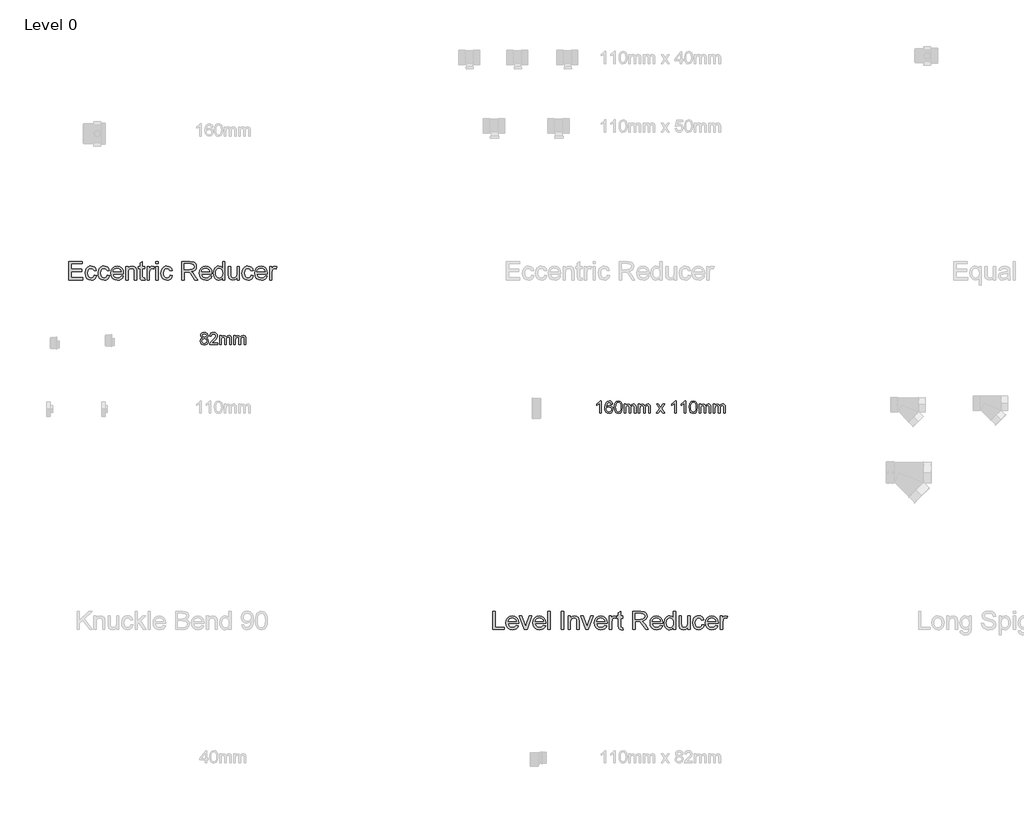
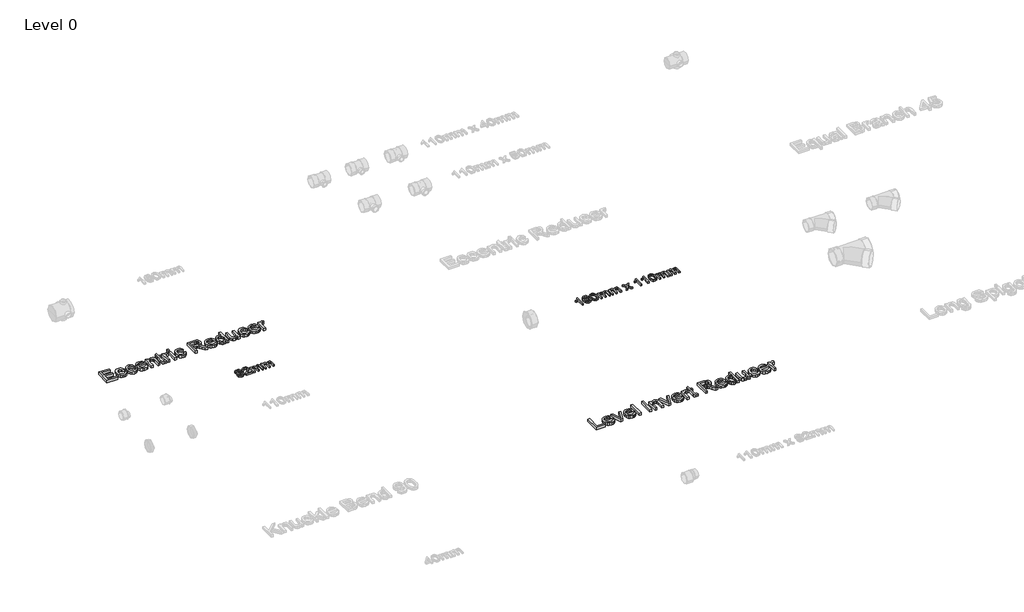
# One storey, part 9 of 28: 4 proxies.
"""IFC4 building model written with IfcOpenShell, lengths in millimetres."""

from ifc_helpers import new_model, si_unit, origin, origin_with_axes, place, context, project, spatial, polyline, outline, extrude, element, save

model = new_model("IFC4")

# Units and contexts
model_context = context("Model", 3, world=origin())
ifc_project = project(units=[si_unit("LENGTHUNIT", "METRE", prefix="MILLI")], contexts=[model_context])

# Site, building, storey
site = spatial("IfcSite", under=ifc_project)
building = spatial("IfcBuilding", under=site)
storey = spatial("IfcBuildingStorey", under=building, Name="Level 0", Elevation=0.0)

# Proxies
placement = place(None, origin())
element("IfcBuildingElementProxy", 1, Name="100mm Arial", ObjectType="100mm Arial", at=placement, inside=storey, context=model_context, shape_type="SweptSolid", body=[
    extrude(outline(polyline([(-20782.2581649, 3240.881174), (-20793.4721072, 3248.5254048), (-20797.1139341, 3260.4244433), (-20795.1307611, 3270.0458375), (-20789.1812418, 3277.9965587), (-20779.9324438, 3283.3330971), (-20768.0514341, 3285.1119433), (-20756.0983091, 3283.2910298), (-20746.7293188, 3277.8282894), (-20740.6716264, 3269.7513663), (-20738.6523957, 3260.0879048), (-20742.2461457, 3248.4893471), (-20753.147588, 3240.881174), (-20740.0586457, 3231.2297317), (-20735.5754726, 3215.304251), (-20737.7990303, 3203.537424), (-20744.4697034, 3193.8138663), (-20754.7701841, 3187.287424), (-20767.8831649, 3185.1119433), (-20780.9961457, 3187.2964385), (-20791.2966264, 3193.849924), (-20797.9672995, 3203.6666308), (-20800.1908572, 3215.6407894), (-20795.5273957, 3231.9388663), (-20782.2581649, 3240.881174)]), holes=[polyline([(-20784.8062418, 3260.0638663), (-20780.4432611, 3250.4004048), (-20767.7389341, 3246.6504048), (-20755.2870111, 3250.3763663), (-20750.960088, 3259.5109817), (-20755.4312418, 3268.9701163), (-20767.8831649, 3272.804251), (-20780.3711457, 3269.054251), (-20784.8062418, 3260.0638663)]), polyline([(-20787.8831649, 3216.0734817), (-20785.8278764, 3206.8066548), (-20778.5562418, 3199.8715587), (-20767.7870111, 3197.4196356), (-20753.1235495, 3202.5758856), (-20747.8831649, 3215.6888663), (-20753.2918188, 3229.054251), (-20759.7221072, 3233.0205971), (-20768.1956649, 3234.3427125), (-20782.678838, 3229.1263663), (-20787.8831649, 3216.0734817)])]), origin_with_axes(), (0.0, 0.0, 1.0), 15.0),
    extrude(outline(polyline([(-20661.7293188, 3198.9580971), (-20661.7293188, 3186.6504048), (-20726.3447034, 3186.6504048), (-20725.022588, 3195.1359817), (-20717.5466264, 3208.2008856), (-20702.1379726, 3222.4677125), (-20680.8879726, 3242.9725202), (-20675.5754726, 3256.9148279), (-20680.5874918, 3268.2008856), (-20693.6764341, 3272.804251), (-20707.3182611, 3268.3090587), (-20712.4985495, 3255.881174), (-20724.8062418, 3257.4196356), (-20721.8224678, 3269.3246837), (-20715.3711457, 3278.0205971), (-20705.7888139, 3283.3391067), (-20693.4120111, 3285.1119433), (-20680.9450639, 3283.1407894), (-20671.3807611, 3277.2273279), (-20665.2960255, 3268.3931933), (-20663.2677803, 3257.6600202), (-20665.4552803, 3245.9893471), (-20672.7269149, 3233.9220394), (-20690.3591264, 3217.0590587), (-20704.5177803, 3205.2201163), (-20710.0706649, 3198.9580971), (-20661.7293188, 3198.9580971)])), origin_with_axes(), (0.0, 0.0, 1.0), 15.0),
    extrude(outline(polyline([(-20646.3447034, 3186.6504048), (-20646.3447034, 3258.9580971), (-20634.0370111, 3258.9580971), (-20634.0370111, 3247.0590587), (-20625.5754726, 3256.8066548), (-20613.5322034, 3260.4965587), (-20601.2004726, 3256.7345394), (-20594.4216264, 3246.193674), (-20584.8182611, 3256.9208375), (-20572.6908572, 3260.4965587), (-20563.4390543, 3259.0091788), (-20556.5971072, 3254.5470394), (-20552.3693428, 3246.9899481), (-20550.960088, 3236.2177125), (-20550.960088, 3186.6504048), (-20563.2677803, 3186.6504048), (-20563.2677803, 3230.929251), (-20564.4096072, 3241.2056933), (-20568.5442226, 3246.2657894), (-20575.5754726, 3248.1888663), (-20587.678838, 3243.2609817), (-20592.4985495, 3227.4677125), (-20592.4985495, 3186.6504048), (-20604.8062418, 3186.6504048), (-20604.8062418, 3232.2994433), (-20607.6547995, 3244.2225202), (-20616.9937418, 3248.1888663), (-20626.1043188, 3245.5446356), (-20632.1620111, 3237.804251), (-20634.0370111, 3223.116751), (-20634.0370111, 3186.6504048), (-20646.3447034, 3186.6504048)])), origin_with_axes(), (0.0, 0.0, 1.0), 15.0),
    extrude(outline(polyline([(-20532.4985495, 3186.6504048), (-20532.4985495, 3258.9580971), (-20520.1908572, 3258.9580971), (-20520.1908572, 3247.0590587), (-20511.7293188, 3256.8066548), (-20499.6860495, 3260.4965587), (-20487.3543188, 3256.7345394), (-20480.5754726, 3246.193674), (-20470.9721072, 3256.9208375), (-20458.8447034, 3260.4965587), (-20449.5929005, 3259.0091788), (-20442.7509534, 3254.5470394), (-20438.5231889, 3246.9899481), (-20437.1139341, 3236.2177125), (-20437.1139341, 3186.6504048), (-20449.4216264, 3186.6504048), (-20449.4216264, 3230.929251), (-20450.5634534, 3241.2056933), (-20454.6980688, 3246.2657894), (-20461.7293188, 3248.1888663), (-20473.8326841, 3243.2609817), (-20478.6523957, 3227.4677125), (-20478.6523957, 3186.6504048), (-20490.960088, 3186.6504048), (-20490.960088, 3232.2994433), (-20493.8086457, 3244.2225202), (-20503.147588, 3248.1888663), (-20512.2581649, 3245.5446356), (-20518.3158572, 3237.804251), (-20520.1908572, 3223.116751), (-20520.1908572, 3186.6504048), (-20532.4985495, 3186.6504048)])), origin_with_axes(), (0.0, 0.0, 1.0), 15.0),
])
element("IfcBuildingElementProxy", 2, Name="100mm Arial", ObjectType="100mm Arial", at=placement, inside=storey, context=model_context, shape_type="SweptSolid", body=[
    extrude(outline(polyline([(-17591.7293188, 2637.7167304), (-17604.0370111, 2637.7167304), (-17604.0370111, 2714.4474996), (-17615.6956649, 2706.1422111), (-17628.6523957, 2699.9282688), (-17628.6523957, 2711.5628842), (-17610.6115303, 2723.0773073), (-17599.6620111, 2736.1782688), (-17591.7293188, 2736.1782688), (-17591.7293188, 2637.7167304)])), origin_with_axes(), (0.0, 0.0, 1.0), 15.0),
    extrude(outline(polyline([(-17499.4216264, 2710.0244227), (-17511.7293188, 2708.4859611), (-17516.3927803, 2718.7503842), (-17528.7245111, 2723.8705765), (-17539.8302803, 2720.8898073), (-17548.2317226, 2709.6999035), (-17551.7293188, 2687.7648073), (-17540.8759534, 2697.5845188), (-17527.4264341, 2700.7936535), (-17516.0562418, 2698.6001438), (-17506.5129726, 2692.019615), (-17500.0406168, 2681.9655285), (-17497.8831649, 2669.3513458), (-17501.9456649, 2652.3681727), (-17513.1235495, 2640.3489419), (-17529.2533572, 2636.1782688), (-17543.2166986, 2638.9426919), (-17554.3374918, 2647.2359611), (-17561.6121313, 2661.8753842), (-17564.0370111, 2683.6782688), (-17561.3447034, 2708.19149), (-17553.2677803, 2724.9523073), (-17542.2401361, 2733.3717785), (-17527.9552803, 2736.1782688), (-17517.1560014, 2734.44149), (-17508.5081649, 2729.2311535), (-17502.4504726, 2720.9559131), (-17499.4216264, 2710.0244227)]), holes=[polyline([(-17551.7293188, 2669.5436535), (-17548.8807611, 2658.8825958), (-17541.3086457, 2651.1422111), (-17530.2148957, 2648.4859611), (-17522.0929005, 2649.8621631), (-17515.7076841, 2653.9907688), (-17511.5700639, 2660.4811535), (-17510.1908572, 2668.9426919), (-17511.5520351, 2677.0646871), (-17515.6355688, 2683.2575958), (-17530.7197034, 2688.4859611), (-17545.6115303, 2683.2575958), (-17550.1998716, 2677.2149275), (-17551.7293188, 2669.5436535)])]), origin_with_axes(), (0.0, 0.0, 1.0), 15.0),
    extrude(outline(polyline([(-17487.1139341, 2686.1542304), (-17483.4961457, 2714.4835573), (-17472.7509534, 2730.8176919), (-17454.8062418, 2736.1782688), (-17440.4312418, 2733.0051919), (-17430.5033572, 2723.8585573), (-17424.7341264, 2709.2912496), (-17422.4985495, 2686.1542304), (-17426.0802803, 2657.9450958), (-17436.7894149, 2641.5749035), (-17454.8062418, 2636.1782688), (-17467.5947034, 2638.5220188), (-17477.3062418, 2645.5532688), (-17484.6620111, 2662.2059131), (-17487.1139341, 2686.1542304)]), holes=[polyline([(-17474.8062418, 2686.1782688), (-17473.3639341, 2666.8182929), (-17469.0370111, 2655.613365), (-17462.5947034, 2650.2678121), (-17454.8062418, 2648.4859611), (-17447.0177803, 2650.2738217), (-17440.5754726, 2655.6374035), (-17436.2485495, 2666.848341), (-17434.8062418, 2686.1782688), (-17436.2004726, 2705.1025477), (-17440.3831649, 2716.394615), (-17446.8134534, 2722.0015861), (-17454.9504726, 2723.8705765), (-17462.6547995, 2722.2239419), (-17468.8447034, 2717.2840381), (-17473.3158572, 2705.2888458), (-17474.8062418, 2686.1782688)])]), origin_with_axes(), (0.0, 0.0, 1.0), 15.0),
    extrude(outline(polyline([(-17408.6523957, 2637.7167304), (-17408.6523957, 2710.0244227), (-17396.3447034, 2710.0244227), (-17396.3447034, 2698.1253842), (-17387.8831649, 2707.8729804), (-17375.8398957, 2711.5628842), (-17363.5081649, 2707.800865), (-17356.7293188, 2697.2599996), (-17347.1259534, 2707.9871631), (-17334.9985495, 2711.5628842), (-17325.7467466, 2710.0755044), (-17318.9047995, 2705.613365), (-17314.6770351, 2698.0562736), (-17313.2677803, 2687.2840381), (-17313.2677803, 2637.7167304), (-17325.5754726, 2637.7167304), (-17325.5754726, 2681.9955765), (-17326.7172995, 2692.2720188), (-17330.8519149, 2697.332115), (-17337.8831649, 2699.2551919), (-17349.9865303, 2694.3273073), (-17354.8062418, 2678.5340381), (-17354.8062418, 2637.7167304), (-17367.1139341, 2637.7167304), (-17367.1139341, 2683.3657688), (-17369.9624918, 2695.2888458), (-17379.3014341, 2699.2551919), (-17388.4120111, 2696.6109611), (-17394.4697034, 2688.8705765), (-17396.3447034, 2674.1830765), (-17396.3447034, 2637.7167304), (-17408.6523957, 2637.7167304)])), origin_with_axes(), (0.0, 0.0, 1.0), 15.0),
    extrude(outline(polyline([(-17294.8062418, 2637.7167304), (-17294.8062418, 2710.0244227), (-17282.4985495, 2710.0244227), (-17282.4985495, 2698.1253842), (-17274.0370111, 2707.8729804), (-17261.9937418, 2711.5628842), (-17249.6620111, 2707.800865), (-17242.8831649, 2697.2599996), (-17233.2797995, 2707.9871631), (-17221.1523957, 2711.5628842), (-17211.9005928, 2710.0755044), (-17205.0586457, 2705.613365), (-17200.8308813, 2698.0562736), (-17199.4216264, 2687.2840381), (-17199.4216264, 2637.7167304), (-17211.7293188, 2637.7167304), (-17211.7293188, 2681.9955765), (-17212.8711457, 2692.2720188), (-17217.0057611, 2697.332115), (-17224.0370111, 2699.2551919), (-17236.1403764, 2694.3273073), (-17240.960088, 2678.5340381), (-17240.960088, 2637.7167304), (-17253.2677803, 2637.7167304), (-17253.2677803, 2683.3657688), (-17256.116338, 2695.2888458), (-17265.4552803, 2699.2551919), (-17274.5658572, 2696.6109611), (-17280.6235495, 2688.8705765), (-17282.4985495, 2674.1830765), (-17282.4985495, 2637.7167304), (-17294.8062418, 2637.7167304)])), origin_with_axes(), (0.0, 0.0, 1.0), 15.0),
    extrude(outline(polyline([(-17150.1908572, 2637.7167304), (-17123.8927803, 2674.0628842), (-17148.6523957, 2710.0244227), (-17133.8447034, 2710.0244227), (-17121.897588, 2692.7167304), (-17116.3206649, 2684.5436535), (-17111.4889341, 2691.2263458), (-17097.8831649, 2710.0244227), (-17083.0754726, 2710.0244227), (-17109.085088, 2674.0628842), (-17084.0370111, 2637.7167304), (-17098.8447034, 2637.7167304), (-17113.9168188, 2659.5676919), (-17116.6812418, 2663.5580765), (-17135.3831649, 2637.7167304), (-17150.1908572, 2637.7167304)])), origin_with_axes(), (0.0, 0.0, 1.0), 15.0),
    extrude(outline(polyline([(-16991.7293188, 2637.7167304), (-17004.0370111, 2637.7167304), (-17004.0370111, 2714.4474996), (-17015.6956649, 2706.1422111), (-17028.6523957, 2699.9282688), (-17028.6523957, 2711.5628842), (-17010.6115303, 2723.0773073), (-16999.6620111, 2736.1782688), (-16991.7293188, 2736.1782688), (-16991.7293188, 2637.7167304)])), origin_with_axes(), (0.0, 0.0, 1.0), 15.0),
    extrude(outline(polyline([(-16916.3447034, 2637.7167304), (-16928.6523957, 2637.7167304), (-16928.6523957, 2714.4474996), (-16940.3110495, 2706.1422111), (-16953.2677803, 2699.9282688), (-16953.2677803, 2711.5628842), (-16935.2269149, 2723.0773073), (-16924.2773957, 2736.1782688), (-16916.3447034, 2736.1782688), (-16916.3447034, 2637.7167304)])), origin_with_axes(), (0.0, 0.0, 1.0), 15.0),
    extrude(outline(polyline([(-16887.1139341, 2686.1542304), (-16883.4961457, 2714.4835573), (-16872.7509534, 2730.8176919), (-16854.8062418, 2736.1782688), (-16840.4312418, 2733.0051919), (-16830.5033572, 2723.8585573), (-16824.7341264, 2709.2912496), (-16822.4985495, 2686.1542304), (-16826.0802803, 2657.9450958), (-16836.7894149, 2641.5749035), (-16854.8062418, 2636.1782688), (-16867.5947034, 2638.5220188), (-16877.3062418, 2645.5532688), (-16884.6620111, 2662.2059131), (-16887.1139341, 2686.1542304)]), holes=[polyline([(-16874.8062418, 2686.1782688), (-16873.3639341, 2666.8182929), (-16869.0370111, 2655.613365), (-16862.5947034, 2650.2678121), (-16854.8062418, 2648.4859611), (-16847.0177803, 2650.2738217), (-16840.5754726, 2655.6374035), (-16836.2485495, 2666.848341), (-16834.8062418, 2686.1782688), (-16836.2004726, 2705.1025477), (-16840.3831649, 2716.394615), (-16846.8134534, 2722.0015861), (-16854.9504726, 2723.8705765), (-16862.6547995, 2722.2239419), (-16868.8447034, 2717.2840381), (-16873.3158572, 2705.2888458), (-16874.8062418, 2686.1782688)])]), origin_with_axes(), (0.0, 0.0, 1.0), 15.0),
    extrude(outline(polyline([(-16808.6523957, 2637.7167304), (-16808.6523957, 2710.0244227), (-16796.3447034, 2710.0244227), (-16796.3447034, 2698.1253842), (-16787.8831649, 2707.8729804), (-16775.8398957, 2711.5628842), (-16763.5081649, 2707.800865), (-16756.7293188, 2697.2599996), (-16747.1259534, 2707.9871631), (-16734.9985495, 2711.5628842), (-16725.7467466, 2710.0755044), (-16718.9047995, 2705.613365), (-16714.6770351, 2698.0562736), (-16713.2677803, 2687.2840381), (-16713.2677803, 2637.7167304), (-16725.5754726, 2637.7167304), (-16725.5754726, 2681.9955765), (-16726.7172995, 2692.2720188), (-16730.8519149, 2697.332115), (-16737.8831649, 2699.2551919), (-16749.9865303, 2694.3273073), (-16754.8062418, 2678.5340381), (-16754.8062418, 2637.7167304), (-16767.1139341, 2637.7167304), (-16767.1139341, 2683.3657688), (-16769.9624918, 2695.2888458), (-16779.3014341, 2699.2551919), (-16788.4120111, 2696.6109611), (-16794.4697034, 2688.8705765), (-16796.3447034, 2674.1830765), (-16796.3447034, 2637.7167304), (-16808.6523957, 2637.7167304)])), origin_with_axes(), (0.0, 0.0, 1.0), 15.0),
    extrude(outline(polyline([(-16694.8062418, 2637.7167304), (-16694.8062418, 2710.0244227), (-16682.4985495, 2710.0244227), (-16682.4985495, 2698.1253842), (-16674.0370111, 2707.8729804), (-16661.9937418, 2711.5628842), (-16649.6620111, 2707.800865), (-16642.8831649, 2697.2599996), (-16633.2797995, 2707.9871631), (-16621.1523957, 2711.5628842), (-16611.9005928, 2710.0755044), (-16605.0586457, 2705.613365), (-16600.8308813, 2698.0562736), (-16599.4216264, 2687.2840381), (-16599.4216264, 2637.7167304), (-16611.7293188, 2637.7167304), (-16611.7293188, 2681.9955765), (-16612.8711457, 2692.2720188), (-16617.0057611, 2697.332115), (-16624.0370111, 2699.2551919), (-16636.1403764, 2694.3273073), (-16640.960088, 2678.5340381), (-16640.960088, 2637.7167304), (-16653.2677803, 2637.7167304), (-16653.2677803, 2683.3657688), (-16656.116338, 2695.2888458), (-16665.4552803, 2699.2551919), (-16674.5658572, 2696.6109611), (-16680.6235495, 2688.8705765), (-16682.4985495, 2674.1830765), (-16682.4985495, 2637.7167304), (-16694.8062418, 2637.7167304)])), origin_with_axes(), (0.0, 0.0, 1.0), 15.0),
])
element("IfcBuildingElementProxy", 3, Name="150mm Arial", ObjectType="150mm Arial", at=placement, inside=storey, context=model_context, shape_type="SweptSolid", body=[
    extrude(outline(polyline([(-21851.7587589, 3705.2145219), (-21851.7587589, 3852.9068296), (-21745.6049127, 3852.9068296), (-21745.6049127, 3834.4452911), (-21833.2972204, 3834.4452911), (-21833.2972204, 3790.5991373), (-21750.2202973, 3790.5991373), (-21750.2202973, 3772.1375988), (-21833.2972204, 3772.1375988), (-21833.2972204, 3723.6760604), (-21743.2972204, 3723.6760604), (-21743.2972204, 3705.2145219), (-21851.7587589, 3705.2145219)])), origin_with_axes(), (0.0, 0.0, 1.0), 25.0),
    extrude(outline(polyline([(-21648.6818358, 3744.4452911), (-21630.2202973, 3742.1375988), (-21635.3675329, 3725.7178272), (-21645.0400089, 3713.3094738), (-21658.3272685, 3705.5074907), (-21674.318855, 3702.9068296), (-21693.9567757, 3706.5351349), (-21709.3128454, 3717.4200508), (-21719.2242036, 3735.0838128), (-21722.5279897, 3759.0486565), (-21716.8849608, 3789.7157238), (-21709.7635666, 3801.2136205), (-21699.6854416, 3809.4212527), (-21687.6286507, 3814.3431277), (-21674.5712589, 3815.9837527), (-21658.9717997, 3813.7301469), (-21646.5003454, 3806.9693296), (-21637.5535305, 3796.0618777), (-21632.5279897, 3781.3683681), (-21650.9895281, 3779.0606758), (-21659.55323, 3792.8888008), (-21674.4270281, 3797.5222142), (-21686.3576171, 3795.2415652), (-21695.8272685, 3788.3996181), (-21702.0066555, 3776.6267815), (-21704.0664512, 3759.5534642), (-21702.0517276, 3742.2502791), (-21696.007557, 3730.4368777), (-21686.7091796, 3723.6354955), (-21674.9318358, 3721.3683681), (-21665.3720401, 3722.7836325), (-21657.5339993, 3727.0294258), (-21651.8323767, 3734.213921), (-21648.6818358, 3744.4452911)])), origin_with_axes(), (0.0, 0.0, 1.0), 25.0),
    extrude(outline(polyline([(-21544.835682, 3744.4452911), (-21526.3741435, 3742.1375988), (-21531.5213791, 3725.7178272), (-21541.193855, 3713.3094738), (-21554.4811147, 3705.5074907), (-21570.4727012, 3702.9068296), (-21590.1106219, 3706.5351349), (-21605.4666916, 3717.4200508), (-21615.3780497, 3735.0838128), (-21618.6818358, 3759.0486565), (-21613.038807, 3789.7157238), (-21605.9174127, 3801.2136205), (-21595.8392877, 3809.4212527), (-21583.7824969, 3814.3431277), (-21570.725105, 3815.9837527), (-21555.1256459, 3813.7301469), (-21542.6541916, 3806.9693296), (-21533.7073767, 3796.0618777), (-21528.6818358, 3781.3683681), (-21547.1433743, 3779.0606758), (-21555.7070762, 3792.8888008), (-21570.5808743, 3797.5222142), (-21582.5114632, 3795.2415652), (-21591.9811147, 3788.3996181), (-21598.1605017, 3776.6267815), (-21600.2202973, 3759.5534642), (-21598.2055738, 3742.2502791), (-21592.1614031, 3730.4368777), (-21582.8630257, 3723.6354955), (-21571.085682, 3721.3683681), (-21561.5258863, 3722.7836325), (-21553.6878454, 3727.0294258), (-21547.9862228, 3734.213921), (-21544.835682, 3744.4452911)])), origin_with_axes(), (0.0, 0.0, 1.0), 25.0),
    extrude(outline(polyline([(-21434.2827973, 3737.5222142), (-21416.1818358, 3735.2145219), (-21422.7037709, 3721.5756998), (-21433.1109223, 3711.3803873), (-21447.1689151, 3705.025219), (-21464.6433743, 3702.9068296), (-21486.3050329, 3706.5621782), (-21502.9727012, 3717.5282238), (-21513.600706, 3735.0928272), (-21517.1433743, 3758.5438488), (-21513.5646483, 3782.7836325), (-21502.8284704, 3800.9116373), (-21486.3861627, 3812.2157238), (-21465.6890473, 3815.9837527), (-21445.6364632, 3812.2247383), (-21429.6133262, 3800.947695), (-21419.1070161, 3782.8557479), (-21415.6049127, 3758.6520219), (-21415.7130858, 3753.6760604), (-21498.6818358, 3753.6760604), (-21495.4862228, 3739.8569498), (-21488.0628454, 3729.697695), (-21477.3492036, 3723.4506998), (-21464.2827973, 3721.3683681), (-21446.1818358, 3725.2265411), (-21434.2827973, 3737.5222142)]), holes=[polyline([(-21498.6818358, 3772.1375988), (-21434.0664512, 3772.1375988), (-21436.5634464, 3781.8912046), (-21441.4582781, 3788.8683681), (-21452.2214993, 3795.3587527), (-21465.7611627, 3797.5222142), (-21478.2055738, 3795.7959522), (-21488.4955377, 3790.6171661), (-21495.6484824, 3782.5447503), (-21498.6818358, 3772.1375988)])]), origin_with_axes(), (0.0, 0.0, 1.0), 25.0),
    extrude(outline(polyline([(-21397.1433743, 3705.2145219), (-21397.1433743, 3813.6760604), (-21378.6818358, 3813.6760604), (-21378.6818358, 3798.5318296), (-21364.5652493, 3811.6207719), (-21345.2924127, 3815.9837527), (-21327.8585185, 3812.4681277), (-21315.95948, 3803.2373585), (-21310.4246243, 3789.6616373), (-21309.4510666, 3771.8130796), (-21309.4510666, 3705.2145219), (-21327.912605, 3705.2145219), (-21327.912605, 3769.3250988), (-21330.0400089, 3785.6592335), (-21337.5580377, 3794.2950508), (-21350.2323166, 3797.5222142), (-21361.0451171, 3795.7103152), (-21370.2623647, 3790.2746181), (-21376.576968, 3779.7728152), (-21378.6818358, 3762.7625988), (-21378.6818358, 3705.2145219), (-21397.1433743, 3705.2145219)])), origin_with_axes(), (0.0, 0.0, 1.0), 25.0),
    extrude(outline(polyline([(-21244.835682, 3720.6111565), (-21242.5279897, 3704.6736565), (-21256.3380858, 3702.9068296), (-21271.8068358, 3705.9717335), (-21279.523182, 3714.0125988), (-21281.7587589, 3734.9621181), (-21281.7587589, 3795.2145219), (-21295.6049127, 3795.2145219), (-21295.6049127, 3813.6760604), (-21281.7587589, 3813.6760604), (-21281.7587589, 3840.0342335), (-21263.2972204, 3850.8875988), (-21263.2972204, 3813.6760604), (-21244.835682, 3813.6760604), (-21244.835682, 3795.2145219), (-21263.2972204, 3795.2145219), (-21263.2972204, 3735.5029835), (-21262.3236627, 3725.9837527), (-21259.1686147, 3722.6123585), (-21252.8765473, 3721.3683681), (-21244.835682, 3720.6111565)])), origin_with_axes(), (0.0, 0.0, 1.0), 25.0),
    extrude(outline(polyline([(-21226.3741435, 3705.2145219), (-21226.3741435, 3813.6760604), (-21210.2202973, 3813.6760604), (-21210.2202973, 3797.6303873), (-21198.7539512, 3812.4140411), (-21187.2154897, 3815.9837527), (-21168.6818358, 3810.2866373), (-21174.8477012, 3793.7361565), (-21187.8284704, 3797.5222142), (-21198.2671723, 3793.8803873), (-21204.9198166, 3783.7842335), (-21207.912605, 3762.2217335), (-21207.912605, 3705.2145219), (-21226.3741435, 3705.2145219)])), origin_with_axes(), (0.0, 0.0, 1.0), 25.0),
    extrude(outline(polyline([(-21157.1433743, 3834.4452911), (-21157.1433743, 3852.9068296), (-21138.6818358, 3852.9068296), (-21138.6818358, 3834.4452911), (-21157.1433743, 3834.4452911)])), origin_with_axes(), (0.0, 0.0, 1.0), 25.0),
    extrude(outline(polyline([(-21157.1433743, 3705.2145219), (-21157.1433743, 3813.6760604), (-21138.6818358, 3813.6760604), (-21138.6818358, 3705.2145219), (-21157.1433743, 3705.2145219)])), origin_with_axes(), (0.0, 0.0, 1.0), 25.0),
    extrude(outline(polyline([(-21041.7587589, 3744.4452911), (-21023.2972204, 3742.1375988), (-21028.444456, 3725.7178272), (-21038.116932, 3713.3094738), (-21051.4041916, 3705.5074907), (-21067.3957781, 3702.9068296), (-21087.0336988, 3706.5351349), (-21102.3897685, 3717.4200508), (-21112.3011267, 3735.0838128), (-21115.6049127, 3759.0486565), (-21109.9618839, 3789.7157238), (-21102.8404897, 3801.2136205), (-21092.7623647, 3809.4212527), (-21080.7055738, 3814.3431277), (-21067.648182, 3815.9837527), (-21052.0487228, 3813.7301469), (-21039.5772685, 3806.9693296), (-21030.6304536, 3796.0618777), (-21025.6049127, 3781.3683681), (-21044.0664512, 3779.0606758), (-21052.6301531, 3792.8888008), (-21067.5039512, 3797.5222142), (-21079.4345401, 3795.2415652), (-21088.9041916, 3788.3996181), (-21095.0835786, 3776.6267815), (-21097.1433743, 3759.5534642), (-21095.1286507, 3742.2502791), (-21089.08448, 3730.4368777), (-21079.7861026, 3723.6354955), (-21068.0087589, 3721.3683681), (-21058.4489632, 3722.7836325), (-21050.6109223, 3727.0294258), (-21044.9092997, 3734.213921), (-21041.7587589, 3744.4452911)])), origin_with_axes(), (0.0, 0.0, 1.0), 25.0),
    extrude(outline(polyline([(-20947.1433743, 3705.2145219), (-20947.1433743, 3852.9068296), (-20883.5015473, 3852.9068296), (-20853.9522685, 3848.9224546), (-20844.8567156, 3843.4056277), (-20837.7984223, 3834.8238969), (-20833.2686747, 3824.1823705), (-20831.7587589, 3812.4861565), (-20834.2602613, 3797.9368777), (-20841.7647685, 3785.8755796), (-20854.4976411, 3777.0324306), (-20872.6842397, 3772.1375988), (-20862.1914512, 3764.2409642), (-20847.2275089, 3745.2385604), (-20822.600105, 3705.2145219), (-20844.054432, 3705.2145219), (-20863.273182, 3735.8275027), (-20877.1553935, 3756.0919258), (-20886.9089993, 3765.6652431), (-20895.6890473, 3769.1808681), (-20906.398182, 3769.8299065), (-20928.6818358, 3769.8299065), (-20928.6818358, 3705.2145219), (-20947.1433743, 3705.2145219)]), holes=[polyline([(-20928.6818358, 3788.291445), (-20887.3597204, 3788.291445), (-20866.2839993, 3790.9056277), (-20854.3128454, 3799.2710123), (-20850.2202973, 3811.8010604), (-20852.1719199, 3820.806469), (-20858.0267877, 3828.0630796), (-20868.1004055, 3832.8497383), (-20882.7082781, 3834.4452911), (-20928.6818358, 3834.4452911), (-20928.6818358, 3788.291445)])]), origin_with_axes(), (0.0, 0.0, 1.0), 25.0),
    extrude(outline(polyline([(-20725.8212589, 3737.5222142), (-20707.7202973, 3735.2145219), (-20714.2422324, 3721.5756998), (-20724.6493839, 3711.3803873), (-20738.7073767, 3705.025219), (-20756.1818358, 3702.9068296), (-20777.8434945, 3706.5621782), (-20794.5111627, 3717.5282238), (-20805.1391675, 3735.0928272), (-20808.6818358, 3758.5438488), (-20805.1031098, 3782.7836325), (-20794.366932, 3800.9116373), (-20777.9246243, 3812.2157238), (-20757.2275089, 3815.9837527), (-20737.1749247, 3812.2247383), (-20721.1517877, 3800.947695), (-20710.6454776, 3782.8557479), (-20707.1433743, 3758.6520219), (-20707.2515473, 3753.6760604), (-20790.2202973, 3753.6760604), (-20787.0246844, 3739.8569498), (-20779.601307, 3729.697695), (-20768.8876651, 3723.4506998), (-20755.8212589, 3721.3683681), (-20737.7202973, 3725.2265411), (-20725.8212589, 3737.5222142)]), holes=[polyline([(-20790.2202973, 3772.1375988), (-20725.6049127, 3772.1375988), (-20728.1019079, 3781.8912046), (-20732.9967397, 3788.8683681), (-20743.7599608, 3795.3587527), (-20757.2996243, 3797.5222142), (-20769.7440353, 3795.7959522), (-20780.0339993, 3790.6171661), (-20787.186944, 3782.5447503), (-20790.2202973, 3772.1375988)])]), origin_with_axes(), (0.0, 0.0, 1.0), 25.0),
    extrude(outline(polyline([(-20621.7587589, 3705.2145219), (-20621.7587589, 3722.6303873), (-20633.9733022, 3707.837719), (-20650.8573166, 3702.9068296), (-20662.7924127, 3704.6916854), (-20673.7178935, 3710.0462527), (-20682.9666916, 3718.596433), (-20689.8717397, 3729.9681277), (-20694.1716195, 3743.7016012), (-20695.6049127, 3759.3371181), (-20690.3224608, 3788.7241373), (-20683.7239031, 3800.3797863), (-20674.4931339, 3808.9525027), (-20663.3287709, 3814.2259402), (-20650.929432, 3815.9837527), (-20633.9102012, 3810.9537046), (-20621.7587589, 3797.8827911), (-20621.7587589, 3852.9068296), (-20603.2972204, 3852.9068296), (-20603.2972204, 3705.2145219), (-20621.7587589, 3705.2145219)]), holes=[polyline([(-20677.1433743, 3759.4092335), (-20675.0610425, 3742.7100147), (-20668.8140473, 3730.8335123), (-20659.7365233, 3723.7346541), (-20649.162605, 3721.3683681), (-20638.593194, 3723.6264811), (-20629.7455377, 3730.40082), (-20623.7554536, 3741.8175868), (-20621.7587589, 3758.0029835), (-20623.7915113, 3775.698296), (-20629.8897685, 3787.9669258), (-20638.9627853, 3795.1333921), (-20649.9198166, 3797.5222142), (-20660.6019079, 3795.2280436), (-20669.3549127, 3788.3455315), (-20675.1962589, 3776.5231157), (-20677.1433743, 3759.4092335)])]), origin_with_axes(), (0.0, 0.0, 1.0), 25.0),
    extrude(outline(polyline([(-20506.3741435, 3705.2145219), (-20506.3741435, 3723.8563488), (-20520.8332781, 3708.1442094), (-20539.6914512, 3702.9068296), (-20557.05323, 3706.5847142), (-20569.0243839, 3715.8154835), (-20574.523182, 3729.4092335), (-20575.6049127, 3746.572695), (-20575.6049127, 3813.6760604), (-20557.1433743, 3813.6760604), (-20557.1433743, 3755.2625988), (-20556.0255858, 3736.4404835), (-20548.7239031, 3725.3888008), (-20534.9678935, 3721.3683681), (-20519.55323, 3725.478945), (-20509.366932, 3736.6748585), (-20506.3741435, 3757.2457719), (-20506.3741435, 3813.6760604), (-20487.912605, 3813.6760604), (-20487.912605, 3705.2145219), (-20506.3741435, 3705.2145219)])), origin_with_axes(), (0.0, 0.0, 1.0), 25.0),
    extrude(outline(polyline([(-20393.2972204, 3744.4452911), (-20374.835682, 3742.1375988), (-20379.9829175, 3725.7178272), (-20389.6553935, 3713.3094738), (-20402.9426531, 3705.5074907), (-20418.9342397, 3702.9068296), (-20438.5721603, 3706.5351349), (-20453.92823, 3717.4200508), (-20463.8395882, 3735.0838128), (-20467.1433743, 3759.0486565), (-20461.5003454, 3789.7157238), (-20454.3789512, 3801.2136205), (-20444.3008262, 3809.4212527), (-20432.2440353, 3814.3431277), (-20419.1866435, 3815.9837527), (-20403.5871844, 3813.7301469), (-20391.11573, 3806.9693296), (-20382.1689151, 3796.0618777), (-20377.1433743, 3781.3683681), (-20395.6049127, 3779.0606758), (-20404.1686147, 3792.8888008), (-20419.0424127, 3797.5222142), (-20430.9730017, 3795.2415652), (-20440.4426531, 3788.3996181), (-20446.6220401, 3776.6267815), (-20448.6818358, 3759.5534642), (-20446.6671122, 3742.2502791), (-20440.6229416, 3730.4368777), (-20431.3245642, 3723.6354955), (-20419.5472204, 3721.3683681), (-20409.9874247, 3722.7836325), (-20402.1493839, 3727.0294258), (-20396.4477613, 3734.213921), (-20393.2972204, 3744.4452911)])), origin_with_axes(), (0.0, 0.0, 1.0), 25.0),
    extrude(outline(polyline([(-20282.7443358, 3737.5222142), (-20264.6433743, 3735.2145219), (-20271.1653094, 3721.5756998), (-20281.5724608, 3711.3803873), (-20295.6304536, 3705.025219), (-20313.1049127, 3702.9068296), (-20334.7665714, 3706.5621782), (-20351.4342397, 3717.5282238), (-20362.0622445, 3735.0928272), (-20365.6049127, 3758.5438488), (-20362.0261868, 3782.7836325), (-20351.2900089, 3800.9116373), (-20334.8477012, 3812.2157238), (-20314.1505858, 3815.9837527), (-20294.0980017, 3812.2247383), (-20278.0748647, 3800.947695), (-20267.5685546, 3782.8557479), (-20264.0664512, 3758.6520219), (-20264.1746243, 3753.6760604), (-20347.1433743, 3753.6760604), (-20343.9477613, 3739.8569498), (-20336.5243839, 3729.697695), (-20325.8107421, 3723.4506998), (-20312.7443358, 3721.3683681), (-20294.6433743, 3725.2265411), (-20282.7443358, 3737.5222142)]), holes=[polyline([(-20347.1433743, 3772.1375988), (-20282.5279897, 3772.1375988), (-20285.0249848, 3781.8912046), (-20289.9198166, 3788.8683681), (-20300.6830377, 3795.3587527), (-20314.2227012, 3797.5222142), (-20326.6671122, 3795.7959522), (-20336.9570762, 3790.6171661), (-20344.1100209, 3782.5447503), (-20347.1433743, 3772.1375988)])]), origin_with_axes(), (0.0, 0.0, 1.0), 25.0),
    extrude(outline(polyline([(-20245.6049127, 3705.2145219), (-20245.6049127, 3813.6760604), (-20229.4510666, 3813.6760604), (-20229.4510666, 3797.6303873), (-20217.9847204, 3812.4140411), (-20206.4462589, 3815.9837527), (-20187.912605, 3810.2866373), (-20194.0784704, 3793.7361565), (-20207.0592397, 3797.5222142), (-20217.4979416, 3793.8803873), (-20224.1505858, 3783.7842335), (-20227.1433743, 3762.2217335), (-20227.1433743, 3705.2145219), (-20245.6049127, 3705.2145219)])), origin_with_axes(), (0.0, 0.0, 1.0), 25.0),
])
element("IfcBuildingElementProxy", 4, Name="150mm Arial", ObjectType="150mm Arial", at=placement, inside=storey, context=model_context, shape_type="SweptSolid", body=[
    extrude(outline(polyline([(-18459.0664512, 905.2145219), (-18459.0664512, 1052.9068296), (-18440.6049127, 1052.9068296), (-18440.6049127, 923.6760604), (-18366.7587589, 923.6760604), (-18366.7587589, 905.2145219), (-18459.0664512, 905.2145219)])), origin_with_axes(), (0.0, 0.0, 1.0), 25.0),
    extrude(outline(polyline([(-18272.3597204, 937.5222142), (-18254.2587589, 935.2145219), (-18260.780694, 921.5756998), (-18271.1878454, 911.3803873), (-18285.2458382, 905.025219), (-18302.7202973, 902.9068296), (-18324.381956, 906.5621782), (-18341.0496243, 917.5282238), (-18351.6776291, 935.0928272), (-18355.2202973, 958.5438488), (-18351.6415714, 982.7836325), (-18340.9053935, 1000.9116373), (-18324.4630858, 1012.2157238), (-18303.7659704, 1015.9837527), (-18283.7133863, 1012.2247383), (-18267.6902493, 1000.947695), (-18257.1839392, 982.8557479), (-18253.6818358, 958.6520219), (-18253.7900089, 953.6760604), (-18336.7587589, 953.6760604), (-18333.5631459, 939.8569498), (-18326.1397685, 929.697695), (-18315.4261267, 923.4506998), (-18302.3597204, 921.3683681), (-18284.2587589, 925.2265411), (-18272.3597204, 937.5222142)]), holes=[polyline([(-18336.7587589, 972.1375988), (-18272.1433743, 972.1375988), (-18274.6403695, 981.8912046), (-18279.5352012, 988.8683681), (-18290.2984223, 995.3587527), (-18303.8380858, 997.5222142), (-18316.2824969, 995.7959522), (-18326.5724608, 990.6171661), (-18333.7254055, 982.5447503), (-18336.7587589, 972.1375988)])]), origin_with_axes(), (0.0, 0.0, 1.0), 25.0),
    extrude(outline(polyline([(-18208.6097204, 905.2145219), (-18246.7587589, 1013.6760604), (-18227.2154897, 1013.6760604), (-18204.1025089, 948.7000988), (-18197.1433743, 926.8491373), (-18190.3284704, 947.4741373), (-18167.0712589, 1013.6760604), (-18147.5279897, 1013.6760604), (-18185.2082781, 905.2145219), (-18208.6097204, 905.2145219)])), origin_with_axes(), (0.0, 0.0, 1.0), 25.0),
    extrude(outline(polyline([(-18055.4366435, 937.5222142), (-18037.335682, 935.2145219), (-18043.8576171, 921.5756998), (-18054.2647685, 911.3803873), (-18068.3227613, 905.025219), (-18085.7972204, 902.9068296), (-18107.4588791, 906.5621782), (-18124.1265473, 917.5282238), (-18134.7545522, 935.0928272), (-18138.2972204, 958.5438488), (-18134.7184945, 982.7836325), (-18123.9823166, 1000.9116373), (-18107.5400089, 1012.2157238), (-18086.8428935, 1015.9837527), (-18066.7903094, 1012.2247383), (-18050.7671723, 1000.947695), (-18040.2608622, 982.8557479), (-18036.7587589, 958.6520219), (-18036.866932, 953.6760604), (-18119.835682, 953.6760604), (-18116.640069, 939.8569498), (-18109.2166916, 929.697695), (-18098.5030497, 923.4506998), (-18085.4366435, 921.3683681), (-18067.335682, 925.2265411), (-18055.4366435, 937.5222142)]), holes=[polyline([(-18119.835682, 972.1375988), (-18055.2202973, 972.1375988), (-18057.7172925, 981.8912046), (-18062.6121243, 988.8683681), (-18073.3753454, 995.3587527), (-18086.9150089, 997.5222142), (-18099.3594199, 995.7959522), (-18109.6493839, 990.6171661), (-18116.8023286, 982.5447503), (-18119.835682, 972.1375988)])]), origin_with_axes(), (0.0, 0.0, 1.0), 25.0),
    extrude(outline(polyline([(-18018.2972204, 905.2145219), (-18018.2972204, 1052.9068296), (-17999.835682, 1052.9068296), (-17999.835682, 905.2145219), (-18018.2972204, 905.2145219)])), origin_with_axes(), (0.0, 0.0, 1.0), 25.0),
    extrude(outline(polyline([(-17909.835682, 905.2145219), (-17909.835682, 1052.9068296), (-17891.3741435, 1052.9068296), (-17891.3741435, 905.2145219), (-17909.835682, 905.2145219)])), origin_with_axes(), (0.0, 0.0, 1.0), 25.0),
    extrude(outline(polyline([(-17856.7587589, 905.2145219), (-17856.7587589, 1013.6760604), (-17838.2972204, 1013.6760604), (-17838.2972204, 998.5318296), (-17824.1806339, 1011.6207719), (-17804.9077973, 1015.9837527), (-17787.4739031, 1012.4681277), (-17775.5748647, 1003.2373585), (-17770.0400089, 989.6616373), (-17769.0664512, 971.8130796), (-17769.0664512, 905.2145219), (-17787.5279897, 905.2145219), (-17787.5279897, 969.3250988), (-17789.6553935, 985.6592335), (-17797.1734223, 994.2950508), (-17809.8477012, 997.5222142), (-17820.6605017, 995.7103152), (-17829.8777493, 990.2746181), (-17836.1923526, 979.7728152), (-17838.2972204, 962.7625988), (-17838.2972204, 905.2145219), (-17856.7587589, 905.2145219)])), origin_with_axes(), (0.0, 0.0, 1.0), 25.0),
    extrude(outline(polyline([(-17717.0712589, 905.2145219), (-17755.2202973, 1013.6760604), (-17735.6770281, 1013.6760604), (-17712.5640473, 948.7000988), (-17705.6049127, 926.8491373), (-17698.7900089, 947.4741373), (-17675.5327973, 1013.6760604), (-17655.9895281, 1013.6760604), (-17693.6698166, 905.2145219), (-17717.0712589, 905.2145219)])), origin_with_axes(), (0.0, 0.0, 1.0), 25.0),
    extrude(outline(polyline([(-17563.898182, 937.5222142), (-17545.7972204, 935.2145219), (-17552.3191555, 921.5756998), (-17562.726307, 911.3803873), (-17576.7842997, 905.025219), (-17594.2587589, 902.9068296), (-17615.9204175, 906.5621782), (-17632.5880858, 917.5282238), (-17643.2160906, 935.0928272), (-17646.7587589, 958.5438488), (-17643.1800329, 982.7836325), (-17632.443855, 1000.9116373), (-17616.0015473, 1012.2157238), (-17595.304432, 1015.9837527), (-17575.2518478, 1012.2247383), (-17559.2287108, 1000.947695), (-17548.7224007, 982.8557479), (-17545.2202973, 958.6520219), (-17545.3284704, 953.6760604), (-17628.2972204, 953.6760604), (-17625.1016074, 939.8569498), (-17617.67823, 929.697695), (-17606.9645882, 923.4506998), (-17593.898182, 921.3683681), (-17575.7972204, 925.2265411), (-17563.898182, 937.5222142)]), holes=[polyline([(-17628.2972204, 972.1375988), (-17563.6818358, 972.1375988), (-17566.178831, 981.8912046), (-17571.0736627, 988.8683681), (-17581.8368839, 995.3587527), (-17595.3765473, 997.5222142), (-17607.8209584, 995.7959522), (-17618.1109223, 990.6171661), (-17625.2638671, 982.5447503), (-17628.2972204, 972.1375988)])]), origin_with_axes(), (0.0, 0.0, 1.0), 25.0),
    extrude(outline(polyline([(-17526.7587589, 905.2145219), (-17526.7587589, 1013.6760604), (-17510.6049127, 1013.6760604), (-17510.6049127, 997.6303873), (-17499.1385666, 1012.4140411), (-17487.600105, 1015.9837527), (-17469.0664512, 1010.2866373), (-17475.2323166, 993.7361565), (-17488.2130858, 997.5222142), (-17498.6517877, 993.8803873), (-17505.304432, 983.7842335), (-17508.2972204, 962.2217335), (-17508.2972204, 905.2145219), (-17526.7587589, 905.2145219)])), origin_with_axes(), (0.0, 0.0, 1.0), 25.0),
    extrude(outline(polyline([(-17418.2972204, 920.6111565), (-17415.9895281, 904.6736565), (-17429.7996243, 902.9068296), (-17445.2683743, 905.9717335), (-17452.9847204, 914.0125988), (-17455.2202973, 934.9621181), (-17455.2202973, 995.2145219), (-17469.0664512, 995.2145219), (-17469.0664512, 1013.6760604), (-17455.2202973, 1013.6760604), (-17455.2202973, 1040.0342335), (-17436.7587589, 1050.8875988), (-17436.7587589, 1013.6760604), (-17418.2972204, 1013.6760604), (-17418.2972204, 995.2145219), (-17436.7587589, 995.2145219), (-17436.7587589, 935.5029835), (-17435.7852012, 925.9837527), (-17432.6301531, 922.6123585), (-17426.3380858, 921.3683681), (-17418.2972204, 920.6111565)])), origin_with_axes(), (0.0, 0.0, 1.0), 25.0),
    extrude(outline(polyline([(-17339.835682, 905.2145219), (-17339.835682, 1052.9068296), (-17276.193855, 1052.9068296), (-17246.6445762, 1048.9224546), (-17237.5490233, 1043.4056277), (-17230.49073, 1034.8238969), (-17225.9609824, 1024.1823705), (-17224.4510666, 1012.4861565), (-17226.952569, 997.9368777), (-17234.4570762, 985.8755796), (-17247.1899488, 977.0324306), (-17265.3765473, 972.1375988), (-17254.8837589, 964.2409642), (-17239.9198166, 945.2385604), (-17215.2924127, 905.2145219), (-17236.7467397, 905.2145219), (-17255.9654897, 935.8275027), (-17269.8477012, 956.0919258), (-17279.601307, 965.6652431), (-17288.381355, 969.1808681), (-17299.0904897, 969.8299065), (-17321.3741435, 969.8299065), (-17321.3741435, 905.2145219), (-17339.835682, 905.2145219)]), holes=[polyline([(-17321.3741435, 988.291445), (-17280.0520281, 988.291445), (-17258.976307, 990.9056277), (-17247.0051531, 999.2710123), (-17242.912605, 1011.8010604), (-17244.8642276, 1020.806469), (-17250.7190954, 1028.0630796), (-17260.7927132, 1032.8497383), (-17275.4005858, 1034.4452911), (-17321.3741435, 1034.4452911), (-17321.3741435, 988.291445)])]), origin_with_axes(), (0.0, 0.0, 1.0), 25.0),
    extrude(outline(polyline([(-17118.5135666, 937.5222142), (-17100.412605, 935.2145219), (-17106.9345401, 921.5756998), (-17117.3416916, 911.3803873), (-17131.3996844, 905.025219), (-17148.8741435, 902.9068296), (-17170.5358022, 906.5621782), (-17187.2034704, 917.5282238), (-17197.8314752, 935.0928272), (-17201.3741435, 958.5438488), (-17197.7954175, 982.7836325), (-17187.0592397, 1000.9116373), (-17170.616932, 1012.2157238), (-17149.9198166, 1015.9837527), (-17129.8672324, 1012.2247383), (-17113.8440954, 1000.947695), (-17103.3377853, 982.8557479), (-17099.835682, 958.6520219), (-17099.943855, 953.6760604), (-17182.912605, 953.6760604), (-17179.7169921, 939.8569498), (-17172.2936147, 929.697695), (-17161.5799728, 923.4506998), (-17148.5135666, 921.3683681), (-17130.412605, 925.2265411), (-17118.5135666, 937.5222142)]), holes=[polyline([(-17182.912605, 972.1375988), (-17118.2972204, 972.1375988), (-17120.7942156, 981.8912046), (-17125.6890473, 988.8683681), (-17136.4522685, 995.3587527), (-17149.991932, 997.5222142), (-17162.436343, 995.7959522), (-17172.726307, 990.6171661), (-17179.8792517, 982.5447503), (-17182.912605, 972.1375988)])]), origin_with_axes(), (0.0, 0.0, 1.0), 25.0),
    extrude(outline(polyline([(-17014.4510666, 905.2145219), (-17014.4510666, 922.6303873), (-17026.6656098, 907.837719), (-17043.5496243, 902.9068296), (-17055.4847204, 904.6916854), (-17066.4102012, 910.0462527), (-17075.6589993, 918.596433), (-17082.5640473, 929.9681277), (-17086.8639272, 943.7016012), (-17088.2972204, 959.3371181), (-17083.0147685, 988.7241373), (-17076.4162108, 1000.3797863), (-17067.1854416, 1008.9525027), (-17056.0210786, 1014.2259402), (-17043.6217397, 1015.9837527), (-17026.6025089, 1010.9537046), (-17014.4510666, 997.8827911), (-17014.4510666, 1052.9068296), (-16995.9895281, 1052.9068296), (-16995.9895281, 905.2145219), (-17014.4510666, 905.2145219)]), holes=[polyline([(-17069.835682, 959.4092335), (-17067.7533502, 942.7100147), (-17061.506355, 930.8335123), (-17052.428831, 923.7346541), (-17041.8549127, 921.3683681), (-17031.2855017, 923.6264811), (-17022.4378454, 930.40082), (-17016.4477613, 941.8175868), (-17014.4510666, 958.0029835), (-17016.483819, 975.698296), (-17022.5820762, 987.9669258), (-17031.655093, 995.1333921), (-17042.6121243, 997.5222142), (-17053.2942156, 995.2280436), (-17062.0472204, 988.3455315), (-17067.8885666, 976.5231157), (-17069.835682, 959.4092335)])]), origin_with_axes(), (0.0, 0.0, 1.0), 25.0),
    extrude(outline(polyline([(-16899.0664512, 905.2145219), (-16899.0664512, 923.8563488), (-16913.5255858, 908.1442094), (-16932.3837589, 902.9068296), (-16949.7455377, 906.5847142), (-16961.7166916, 915.8154835), (-16967.2154897, 929.4092335), (-16968.2972204, 946.572695), (-16968.2972204, 1013.6760604), (-16949.835682, 1013.6760604), (-16949.835682, 955.2625988), (-16948.7178935, 936.4404835), (-16941.4162108, 925.3888008), (-16927.6602012, 921.3683681), (-16912.2455377, 925.478945), (-16902.0592397, 936.6748585), (-16899.0664512, 957.2457719), (-16899.0664512, 1013.6760604), (-16880.6049127, 1013.6760604), (-16880.6049127, 905.2145219), (-16899.0664512, 905.2145219)])), origin_with_axes(), (0.0, 0.0, 1.0), 25.0),
    extrude(outline(polyline([(-16785.9895281, 944.4452911), (-16767.5279897, 942.1375988), (-16772.6752252, 925.7178272), (-16782.3477012, 913.3094738), (-16795.6349608, 905.5074907), (-16811.6265473, 902.9068296), (-16831.264468, 906.5351349), (-16846.6205377, 917.4200508), (-16856.5318959, 935.0838128), (-16859.835682, 959.0486565), (-16854.1926531, 989.7157238), (-16847.0712589, 1001.2136205), (-16836.9931339, 1009.4212527), (-16824.936343, 1014.3431277), (-16811.8789512, 1015.9837527), (-16796.2794921, 1013.7301469), (-16783.8080377, 1006.9693296), (-16774.8612228, 996.0618777), (-16769.835682, 981.3683681), (-16788.2972204, 979.0606758), (-16796.8609223, 992.8888008), (-16811.7347204, 997.5222142), (-16823.6653094, 995.2415652), (-16833.1349608, 988.3996181), (-16839.3143478, 976.6267815), (-16841.3741435, 959.5534642), (-16839.3594199, 942.2502791), (-16833.3152493, 930.4368777), (-16824.0168719, 923.6354955), (-16812.2395281, 921.3683681), (-16802.6797324, 922.7836325), (-16794.8416916, 927.0294258), (-16789.140069, 934.213921), (-16785.9895281, 944.4452911)])), origin_with_axes(), (0.0, 0.0, 1.0), 25.0),
    extrude(outline(polyline([(-16675.4366435, 937.5222142), (-16657.335682, 935.2145219), (-16663.8576171, 921.5756998), (-16674.2647685, 911.3803873), (-16688.3227613, 905.025219), (-16705.7972204, 902.9068296), (-16727.4588791, 906.5621782), (-16744.1265473, 917.5282238), (-16754.7545522, 935.0928272), (-16758.2972204, 958.5438488), (-16754.7184945, 982.7836325), (-16743.9823166, 1000.9116373), (-16727.5400089, 1012.2157238), (-16706.8428935, 1015.9837527), (-16686.7903094, 1012.2247383), (-16670.7671723, 1000.947695), (-16660.2608622, 982.8557479), (-16656.7587589, 958.6520219), (-16656.866932, 953.6760604), (-16739.835682, 953.6760604), (-16736.640069, 939.8569498), (-16729.2166916, 929.697695), (-16718.5030497, 923.4506998), (-16705.4366435, 921.3683681), (-16687.335682, 925.2265411), (-16675.4366435, 937.5222142)]), holes=[polyline([(-16739.835682, 972.1375988), (-16675.2202973, 972.1375988), (-16677.7172925, 981.8912046), (-16682.6121243, 988.8683681), (-16693.3753454, 995.3587527), (-16706.9150089, 997.5222142), (-16719.3594199, 995.7959522), (-16729.6493839, 990.6171661), (-16736.8023286, 982.5447503), (-16739.835682, 972.1375988)])]), origin_with_axes(), (0.0, 0.0, 1.0), 25.0),
    extrude(outline(polyline([(-16638.2972204, 905.2145219), (-16638.2972204, 1013.6760604), (-16622.1433743, 1013.6760604), (-16622.1433743, 997.6303873), (-16610.6770281, 1012.4140411), (-16599.1385666, 1015.9837527), (-16580.6049127, 1010.2866373), (-16586.7707781, 993.7361565), (-16599.7515473, 997.5222142), (-16610.1902493, 993.8803873), (-16616.8428935, 983.7842335), (-16619.835682, 962.2217335), (-16619.835682, 905.2145219), (-16638.2972204, 905.2145219)])), origin_with_axes(), (0.0, 0.0, 1.0), 25.0),
])

save(model, "model.ifc")
